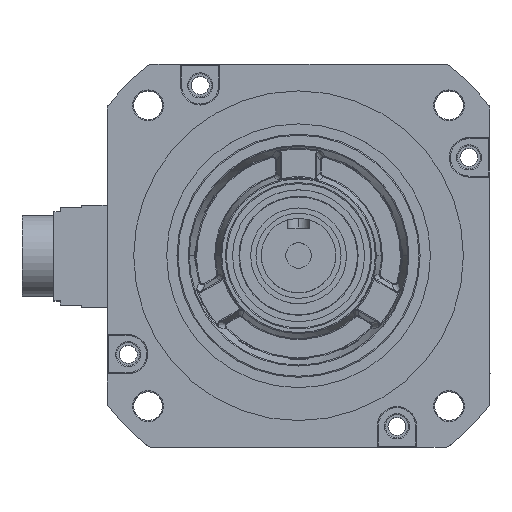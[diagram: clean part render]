
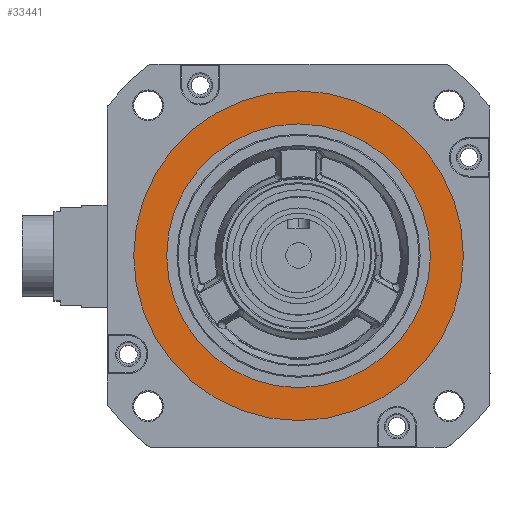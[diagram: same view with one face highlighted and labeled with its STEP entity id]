
A CAD part, top view. The second image highlights one B-rep face of the part: STEP entity #33441.
In plain terms, the highlighted planar face has unit normal (0, 0, 1).
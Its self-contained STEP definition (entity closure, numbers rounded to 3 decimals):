
#21802=CARTESIAN_POINT('Vertex',(68.644,3.946,32.604)) ;
#21809=CARTESIAN_POINT('Vertex',(-86.356,3.946,32.604)) ;
#21812=CARTESIAN_POINT('Axis2P3D Location',(-8.856,3.946,32.604)) ;
#21824=CARTESIAN_POINT('Axis2P3D Location',(-8.856,3.946,32.604)) ;
#33414=CARTESIAN_POINT('Axis2P3D Location',(-8.856,3.946,32.604)) ;
#33423=CARTESIAN_POINT('Axis2P3D Location',(-8.856,3.946,32.604)) ;
#33427=CARTESIAN_POINT('Vertex',(-70.856,3.946,32.604)) ;
#33429=CARTESIAN_POINT('Vertex',(53.144,3.946,32.604)) ;
#33432=CARTESIAN_POINT('Axis2P3D Location',(-8.856,3.946,32.604)) ;
#21813=DIRECTION('Axis2P3D Direction',(0.,0.,1.)) ;
#21825=DIRECTION('Axis2P3D Direction',(0.,0.,1.)) ;
#33415=DIRECTION('Axis2P3D Direction',(0.,0.,1.)) ;
#33416=DIRECTION('Axis2P3D XDirection',(1.,0.,0.)) ;
#33424=DIRECTION('Axis2P3D Direction',(0.,0.,1.)) ;
#33433=DIRECTION('Axis2P3D Direction',(0.,0.,1.)) ;
#21814=AXIS2_PLACEMENT_3D('Circle Axis2P3D',#21812,#21813,$) ;
#21826=AXIS2_PLACEMENT_3D('Circle Axis2P3D',#21824,#21825,$) ;
#33417=AXIS2_PLACEMENT_3D('Plane Axis2P3D',#33414,#33415,#33416) ;
#33425=AXIS2_PLACEMENT_3D('Circle Axis2P3D',#33423,#33424,$) ;
#33434=AXIS2_PLACEMENT_3D('Circle Axis2P3D',#33432,#33433,$) ;
#33420=ORIENTED_EDGE('',*,*,#21816,.T.) ;
#33421=ORIENTED_EDGE('',*,*,#21828,.T.) ;
#33438=ORIENTED_EDGE('',*,*,#33431,.F.) ;
#33439=ORIENTED_EDGE('',*,*,#33436,.F.) ;
#33440=FACE_BOUND('',#33437,.T.) ;
#33441=ADVANCED_FACE('\X2\96F64EF651E04F554F53\X0\',(#33422,#33440),#33418,.T.) ;
#21815=CIRCLE('generated circle',#21814,77.5) ;
#21827=CIRCLE('generated circle',#21826,77.5) ;
#33426=CIRCLE('generated circle',#33425,62.) ;
#33435=CIRCLE('generated circle',#33434,62.) ;
#21816=EDGE_CURVE('',#21803,#21810,#21815,.T.) ;
#21828=EDGE_CURVE('',#21810,#21803,#21827,.T.) ;
#33431=EDGE_CURVE('',#33428,#33430,#33426,.T.) ;
#33436=EDGE_CURVE('',#33430,#33428,#33435,.T.) ;
#33419=EDGE_LOOP('',(#33420,#33421)) ;
#33437=EDGE_LOOP('',(#33438,#33439)) ;
#33422=FACE_OUTER_BOUND('',#33419,.T.) ;
#33418=PLANE('Plane',#33417) ;
#21803=VERTEX_POINT('',#21802) ;
#21810=VERTEX_POINT('',#21809) ;
#33428=VERTEX_POINT('',#33427) ;
#33430=VERTEX_POINT('',#33429) ;
